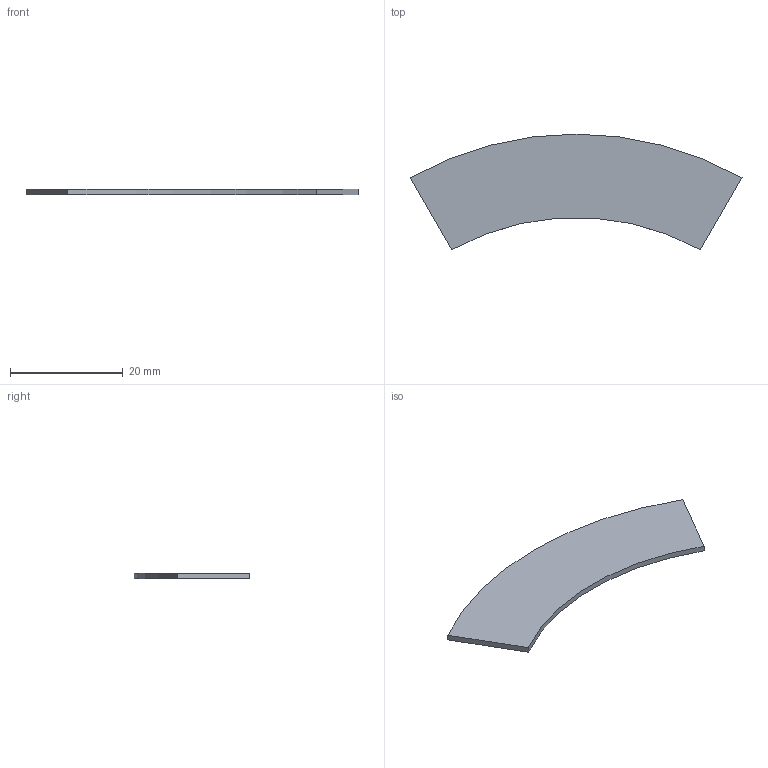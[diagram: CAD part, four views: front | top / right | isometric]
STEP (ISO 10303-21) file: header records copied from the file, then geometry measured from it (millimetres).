
FILE_DESCRIPTION(('FreeCAD Model'),'2;1');
FILE_NAME('Open CASCADE Shape Model','2026-01-12T14:57:47',(''),(''), 'Open CASCADE STEP processor 7.8','FreeCAD','Unknown');
FILE_SCHEMA(('AUTOMOTIVE_DESIGN { 1 0 10303 214 1 1 1 1 }'));
Length unit declared in the file: millimetre
Products named in the file (1): Body001
Bounding box: 58.96 x 20.56 x 1 mm (x, y, z)
Volume: 797.5 mm3; surface area: 1732.3 mm2
Topology: 1 solids, 1 shells, 6 faces, 12 edges, 8 vertices
Faces by surface type: plane 4, cylinder 2
Entity records: 182 total; most frequent: DIRECTION 30, CARTESIAN_POINT 27, ORIENTED_EDGE 24, EDGE_CURVE 12, AXIS2_PLACEMENT_3D 11, VERTEX_POINT 8, LINE 8, VECTOR 8
